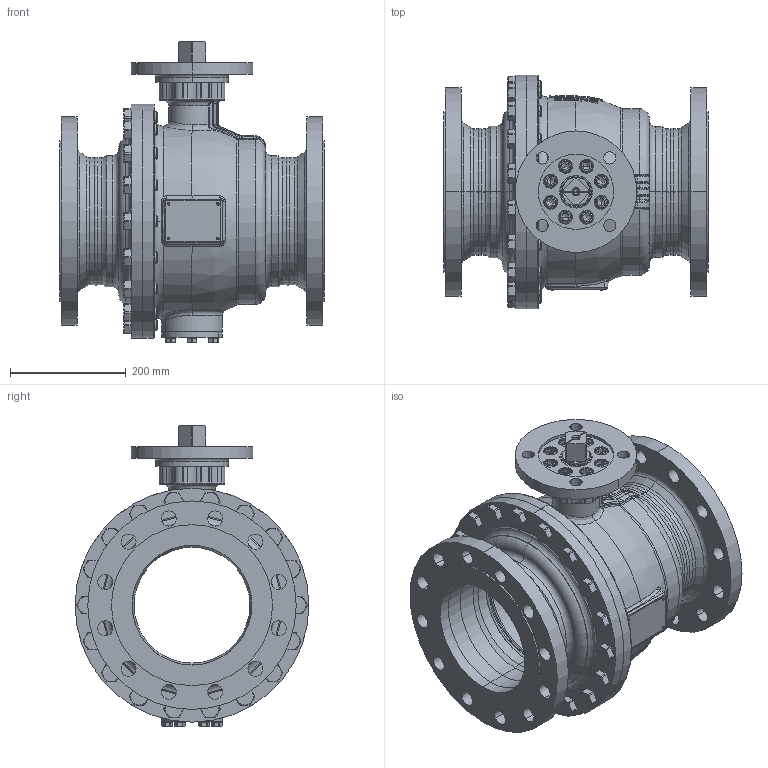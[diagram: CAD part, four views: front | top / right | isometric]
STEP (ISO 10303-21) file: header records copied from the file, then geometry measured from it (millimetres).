
FILE_DESCRIPTION((''),'2;1');
FILE_NAME('KHI-F_200_PN025-F16-4_SW0001','2026-02-05T13:08:31',('fischerkl'),('KLINGER'),'CREO PARAMETRIC BY PTC INC, 2023014','CREO PARAMETRIC BY PTC INC, 2023014','');
FILE_SCHEMA(('CONFIG_CONTROL_DESIGN'));
Products named in the file (1): KHI-F_200_PN025-F16-4_SW0001
Bounding box: 457 x 404 x 519.2 mm (x, y, z)
Volume: 13757303 mm3; surface area: 2318928.1 mm2
Topology: 1 solids, 4 shells, 3808 faces, 9722 edges, 6057 vertices
Faces by surface type: plane 2303, cylinder 714, cone 364, torus 289, bspline 108, sphere 30
Entity records: 148285 total; most frequent: CARTESIAN_POINT 58242, ORIENTED_EDGE 19392, DIRECTION 17889, EDGE_CURVE 9696, AXIS2_PLACEMENT_3D 6350, VERTEX_POINT 6057, VECTOR 5189, LINE 5189
